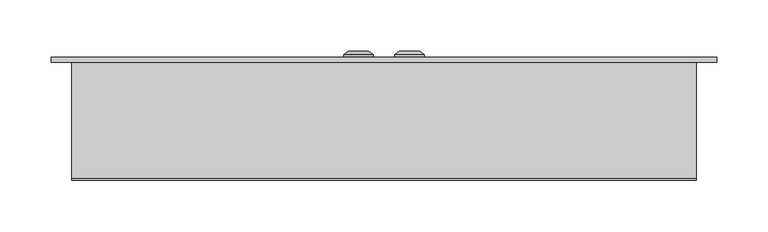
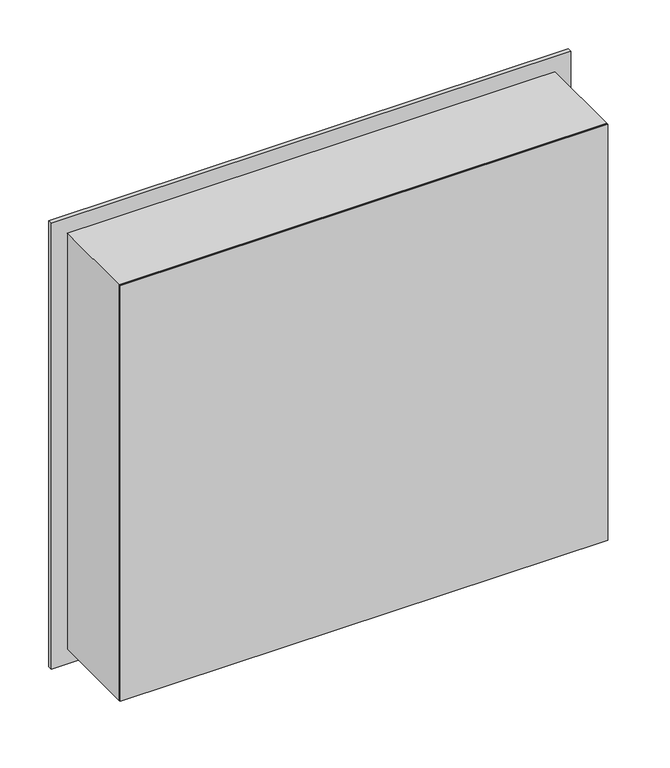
"""IFC4 building model written with IfcOpenShell, lengths in millimetres: proxy geometry, ЩРВ_72 : ЩРВ-72."""

from ifc_helpers import new_model, si_unit, frame, origin, origin_with_axes, place, context, project, spatial, polyline, circle_curve, outline, extrude, source, transform, mapped, element, save
from ifc_brep_helpers import plane_surface, cylinder_surface, revolved_surface, advanced_brep


def electrical_equipment_0d211c91(model_context):
    return source(origin(), model_context, "Body", "SolidModel", [
        advanced_brep(
        [(25.0, 120.0, 275.0), (10.669873, 120.0, 275.0), (39.330127, 120.0, 275.0), (10.669873, 122.366592, 275.0), (39.330127, 122.366592, 275.0), (15.0, 126.0, 275.0), (35.0, 126.0, 275.0), (23.1080471, 126.0, 275.0), (26.8919529, 126.0, 275.0), (23.1080471, 124.9822294, 275.0), (26.8919529, 124.9822294, 275.0), (25.0, 124.9822294, 275.0)],
        [
            (0, 1),
            (1, 2, circle_curve(frame((25.0, 120.0, 275.0), z_axis=(0.0, -1.0, 0.0), x_axis=(-1.0, 0.0, 0.0)), 14.330127)),
            (2, 0),
            (2, 1, circle_curve(frame((25.0, 120.0, 275.0), z_axis=(0.0, -1.0, 0.0), x_axis=(-1.0, 0.0, 0.0)), 14.330127)),
            (1, 3),
            (3, 4, circle_curve(frame((25.0, 122.366592, 275.0), z_axis=(0.0, -1.0, 0.0), x_axis=(-1.0, 0.0, 0.0)), 14.330127)),
            (4, 2),
            (4, 3, circle_curve(frame((25.0, 122.366592, 275.0), z_axis=(0.0, -1.0, 0.0), x_axis=(-1.0, 0.0, 0.0)), 14.330127)),
            (3, 5),
            (5, 6, circle_curve(frame((25.0, 126.0, 275.0), z_axis=(0.0, -1.0, 0.0), x_axis=(-1.0, 0.0, 0.0)), 10.0)),
            (6, 4),
            (6, 5, circle_curve(frame((25.0, 126.0, 275.0), z_axis=(0.0, -1.0, 0.0), x_axis=(-1.0, 0.0, 0.0)), 10.0)),
            (5, 7),
            (7, 8, circle_curve(frame((25.0, 126.0, 275.0), z_axis=(0.0, -1.0, 0.0), x_axis=(-1.0, 0.0, 0.0)), 1.8919529)),
            (8, 6),
            (8, 7, circle_curve(frame((25.0, 126.0, 275.0), z_axis=(0.0, -1.0, 0.0), x_axis=(-1.0, 0.0, 0.0)), 1.8919529)),
            (7, 9),
            (9, 10, circle_curve(frame((25.0, 124.9822294, 275.0), z_axis=(0.0, -1.0, 0.0), x_axis=(-1.0, 0.0, 0.0)), 1.8919529)),
            (10, 8),
            (10, 9, circle_curve(frame((25.0, 124.9822294, 275.0), z_axis=(0.0, -1.0, 0.0), x_axis=(-1.0, 0.0, 0.0)), 1.8919529)),
            (9, 11),
            (11, 10),
        ],
        [
            plane_surface(frame((25.0, 120.0, 275.0), z_axis=(0.0, -1.0, 0.0), x_axis=(-1.0, 0.0, 0.0))),
            cylinder_surface(frame((25.0, 133.1348851, 275.0), z_axis=(0.0, -1.0, 0.0), x_axis=(-1.0, 0.0, 0.0)), 14.330127),
            revolved_surface(polyline([(15.0, 126.0, 275.0), (10.669873, 122.366592, 275.0)]), (25.0, 133.1348851, 275.0), (0.0, -1.0, 0.0)),
            plane_surface(frame((25.0, 126.0, 275.0), z_axis=(0.0, 1.0, 0.0), x_axis=(-1.0, 0.0, 0.0))),
            revolved_surface(polyline([(23.1080471, 124.9822294, 275.0), (23.1080471, 126.0, 275.0)]), (25.0, 133.1348851, 275.0), (0.0, -1.0, 0.0)),
            plane_surface(frame((25.0, 124.9822294, 275.0), z_axis=(0.0, 1.0, 0.0), x_axis=(-1.0, 0.0, 0.0))),
        ],
        [
            (0, [[1, 2, 3]]),
            (0, [[-3, 4, -1]]),
            (1, [[-2, 5, 6, 7]]),
            (1, [[-4, -7, 8, -5]]),
            (2, [[-6, 9, 10, 11]]),
            (2, [[-8, -11, 12, -9]]),
            (3, [[-10, 13, 14, 15]]),
            (3, [[-12, -15, 16, -13]]),
            (4, [[-14, 17, 18, 19]]),
            (4, [[-16, -19, 20, -17]]),
            (5, [[-18, 21, 22]]),
            (5, [[-20, -22, -21]]),
        ],
    ),
        advanced_brep(
        [(-39.330127, 120.0, 275.0), (-10.669873, 120.0, 275.0), (-25.0, 120.0, 275.0), (-39.330127, 122.366592, 275.0), (-10.669873, 122.366592, 275.0), (-35.0, 126.0, 275.0), (-15.0, 126.0, 275.0), (-26.8919529, 126.0, 275.0), (-23.1080471, 126.0, 275.0), (-26.8919529, 124.9822294, 275.0), (-23.1080471, 124.9822294, 275.0), (-25.0, 124.9822294, 275.0)],
        [
            (0, 1, circle_curve(frame((-25.0, 120.0, 275.0), z_axis=(0.0, -1.0, 0.0), x_axis=(1.0, 0.0, 0.0)), 14.330127)),
            (1, 2),
            (2, 0),
            (1, 0, circle_curve(frame((-25.0, 120.0, 275.0), z_axis=(0.0, -1.0, 0.0), x_axis=(1.0, 0.0, 0.0)), 14.330127)),
            (3, 4, circle_curve(frame((-25.0, 122.366592, 275.0), z_axis=(0.0, -1.0, 0.0), x_axis=(1.0, 0.0, 0.0)), 14.330127)),
            (4, 1),
            (0, 3),
            (4, 3, circle_curve(frame((-25.0, 122.366592, 275.0), z_axis=(0.0, -1.0, 0.0), x_axis=(1.0, 0.0, 0.0)), 14.330127)),
            (5, 6, circle_curve(frame((-25.0, 126.0, 275.0), z_axis=(0.0, -1.0, 0.0), x_axis=(1.0, 0.0, 0.0)), 10.0)),
            (6, 4),
            (3, 5),
            (6, 5, circle_curve(frame((-25.0, 126.0, 275.0), z_axis=(0.0, -1.0, 0.0), x_axis=(1.0, 0.0, 0.0)), 10.0)),
            (7, 8, circle_curve(frame((-25.0, 126.0, 275.0), z_axis=(0.0, -1.0, 0.0), x_axis=(1.0, 0.0, 0.0)), 1.8919529)),
            (8, 6),
            (5, 7),
            (8, 7, circle_curve(frame((-25.0, 126.0, 275.0), z_axis=(0.0, -1.0, 0.0), x_axis=(1.0, 0.0, 0.0)), 1.8919529)),
            (9, 10, circle_curve(frame((-25.0, 124.9822294, 275.0), z_axis=(0.0, -1.0, 0.0), x_axis=(1.0, 0.0, 0.0)), 1.8919529)),
            (10, 8),
            (7, 9),
            (10, 9, circle_curve(frame((-25.0, 124.9822294, 275.0), z_axis=(0.0, -1.0, 0.0), x_axis=(1.0, 0.0, 0.0)), 1.8919529)),
            (11, 10),
            (9, 11),
        ],
        [
            plane_surface(frame((-25.0, 120.0, 275.0), z_axis=(0.0, -1.0, 0.0), x_axis=(1.0, 0.0, 0.0))),
            cylinder_surface(frame((-25.0, 133.1348851, 275.0), z_axis=(0.0, 1.0, 0.0), x_axis=(1.0, 0.0, 0.0)), 14.330127),
            revolved_surface(polyline([(-10.669873, 122.366592, 275.0), (-15.0, 126.0, 275.0)]), (-25.0, 133.1348851, 275.0), (0.0, 1.0, 0.0)),
            plane_surface(frame((-25.0, 126.0, 275.0), z_axis=(0.0, 1.0, 0.0), x_axis=(1.0, 0.0, 0.0))),
            revolved_surface(polyline([(-23.1080471, 126.0, 275.0), (-23.1080471, 124.9822294, 275.0)]), (-25.0, 133.1348851, 275.0), (0.0, 1.0, 0.0)),
            plane_surface(frame((-25.0, 124.9822294, 275.0), z_axis=(0.0, 1.0, 0.0), x_axis=(1.0, 0.0, 0.0))),
        ],
        [
            (0, [[1, 2, 3]]),
            (0, [[4, -3, -2]]),
            (1, [[5, 6, -1, 7]]),
            (1, [[8, -7, -4, -6]]),
            (2, [[9, 10, -5, 11]]),
            (2, [[12, -11, -8, -10]]),
            (3, [[13, 14, -9, 15]]),
            (3, [[16, -15, -12, -14]]),
            (4, [[17, 18, -13, 19]]),
            (4, [[20, -19, -16, -18]]),
            (5, [[21, -17, 22]]),
            (5, [[-22, -20, -21]]),
        ],
    ),
        extrude(outline(polyline([(570.0, -325.0033905), (-20.0, -325.0033905), (-20.0, 324.9966095), (570.0, 324.9966095), (570.0, -325.0033905)]), holes=[polyline([(545.0, -300.0), (545.0, 300.0), (5.0, 300.0), (5.0, -300.0), (545.0, -300.0)])]), frame((0.0, 115.0, 0.0), z_axis=(0.0, 1.0, 0.0), x_axis=(0.0, 0.0, 1.0)), (0.0, 0.0, 1.0), 5.0),
        extrude(outline(polyline([(-1.5002485, 115.0), (-299.0, 115.0), (-299.0, 120.0), (-1.5002485, 120.0), (-1.5002485, 115.0)])), frame((0.0, 0.0, 6.0), z_axis=(0.0, 0.0, 1.0), x_axis=(1.0, 0.0, 0.0)), (0.0, 0.0, 1.0), 538.0),
        extrude(outline(polyline([(299.0, 115.0), (1.5002485, 115.0), (1.5002485, 120.0), (299.0, 120.0), (299.0, 115.0)])), frame((0.0, 0.0, 6.0), z_axis=(0.0, 0.0, 1.0), x_axis=(1.0, 0.0, 0.0)), (0.0, 0.0, 1.0), 538.0),
        extrude(outline(polyline([(550.0, -305.0033905), (0.0, -305.0033905), (0.0, 304.9966095), (550.0, 304.9966095), (550.0, -305.0033905)]), holes=[polyline([(545.0, -300.0), (545.0, 300.0), (5.0, 300.0), (5.0, -300.0), (545.0, -300.0)])]), frame((0.0, 2.0, 0.0), z_axis=(0.0, 1.0, 0.0), x_axis=(0.0, 0.0, 1.0)), (0.0, 0.0, 1.0), 113.0),
        extrude(outline(polyline([(305.0, 0.0), (-305.0, 0.0), (-305.0, 2.0), (305.0, 2.0), (305.0, 0.0)])), origin_with_axes(), (0.0, 0.0, 1.0), 550.0),
    ])


if __name__ == "__main__":
    model = new_model("IFC4")
    model_context = context("Model", 3, world=origin())
    ifc_project = project(units=[si_unit("LENGTHUNIT", "METRE", prefix="MILLI")], contexts=[model_context])
    site = spatial("IfcSite", under=ifc_project)
    building = spatial("IfcBuilding", under=site)
    placement = place(None, origin())
    electrical_equipment_shape = electrical_equipment_0d211c91(model_context)
    element("IfcBuildingElementProxy", 1, Name="ЩРВ_72 : ЩРВ-72", ObjectType="ЩРВ_72 : ЩРВ-72", at=placement, inside=building, context=model_context, shape_type="MappedRepresentation", body=[
        mapped(electrical_equipment_shape, transform((0.0, 0.0, 0.0), x_axis=(1.0, 0.0, 0.0), y_axis=(0.0, 1.0, 0.0), z_axis=(0.0, 0.0, 1.0))),
    ])
    save(model, "model.ifc")
